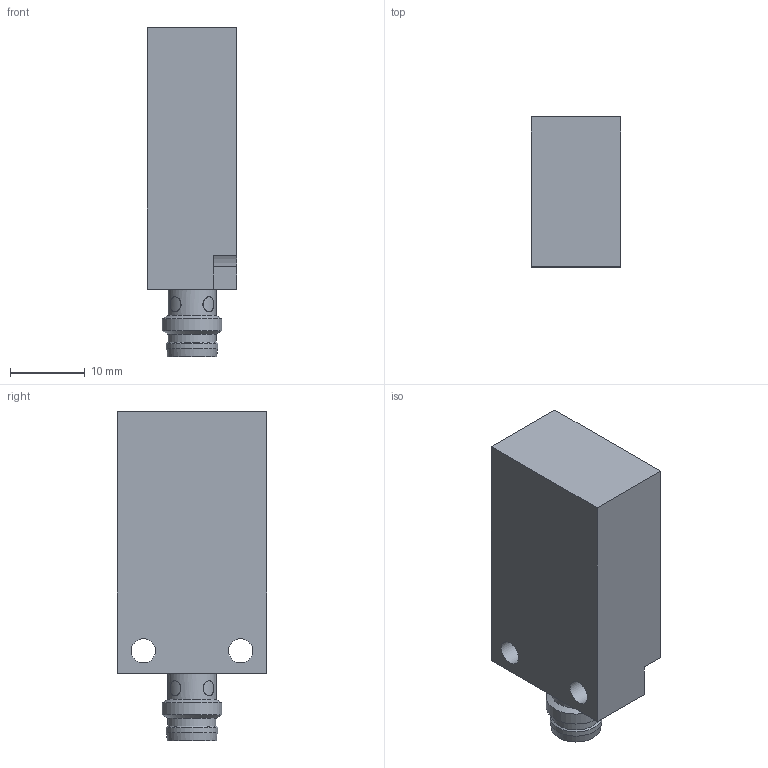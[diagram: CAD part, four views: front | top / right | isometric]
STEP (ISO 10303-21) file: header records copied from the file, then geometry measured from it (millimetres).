
FILE_DESCRIPTION( ( 'Unknown' ), '1' );
FILE_NAME( '//baumerholding.org/frauenfeld/bereich/BECH/Services/me_CAD/Solid Edge/Models/Dokumentationen/Induktiv/IxFx 20/Vereinfachte Modelle/Neutralformate/IWFM 20x950x_S35.stp', 'Unknown', ( 'Unknown' ), ( 'Unknown' ), 'XStep 1.0', 'Unknown', ' ' );
FILE_SCHEMA( ( 'CONFIG_CONTROL_DESIGN' ) );
Length unit declared in the file: millimetre
Products named in the file (1): 110113
Bounding box: 12 x 20 x 44 mm (x, y, z)
Volume: 8231.2 mm3; surface area: 3284.4 mm2
Topology: 1 solids, 1 shells, 45 faces, 105 edges, 66 vertices
Faces by surface type: cylinder 22, plane 16, cone 4, sphere 3
Full cylindrical faces by diameter (mm): 1 x3, 2 x4, 3.242 x2, 5.77 x1, 6.5 x2, 6.9 x1, 8 x1, 16.5 x1, 16.7 x1
Entity records: 1356 total; most frequent: CARTESIAN_POINT 436, DIRECTION 182, ORIENTED_EDGE 138, EDGE_LOOP 80, AXIS2_PLACEMENT_3D 75, EDGE_CURVE 69, FACE_OUTER_BOUND 61, VERTEX_POINT 57
